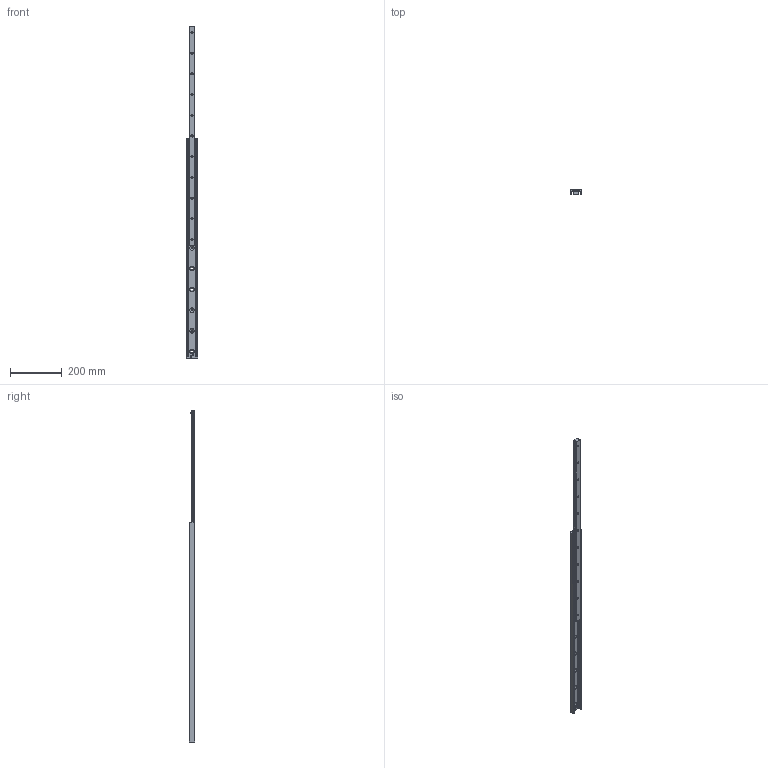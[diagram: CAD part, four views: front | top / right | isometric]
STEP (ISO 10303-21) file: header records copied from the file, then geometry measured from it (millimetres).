
FILE_DESCRIPTION(('STEP AP214'),'1');
FILE_NAME('rail_asn43-850_01.stp','2017-06-06T10:18:04',('TraceParts'),('TraceParts S.A.'),'Spatial InterOp 3D',' ',' ');
FILE_SCHEMA(('automotive_design'));
Length unit declared in the file: millimetre
Products named in the file (2): rail_asn43-850_01_1; rail_asn43-850_01_2
Bounding box: 43 x 22.01 x 1283 mm (x, y, z)
Volume: 517425.3 mm3; surface area: 200766.4 mm2
Topology: 2 solids, 2 shells, 187 faces, 468 edges, 290 vertices
Faces by surface type: cylinder 75, cone 66, plane 46
Entity records: 5708 total; most frequent: DIRECTION 1062, CARTESIAN_POINT 947, ORIENTED_EDGE 936, EDGE_CURVE 468, AXIS2_PLACEMENT_3D 405, VERTEX_POINT 290, LINE 252, VECTOR 252
